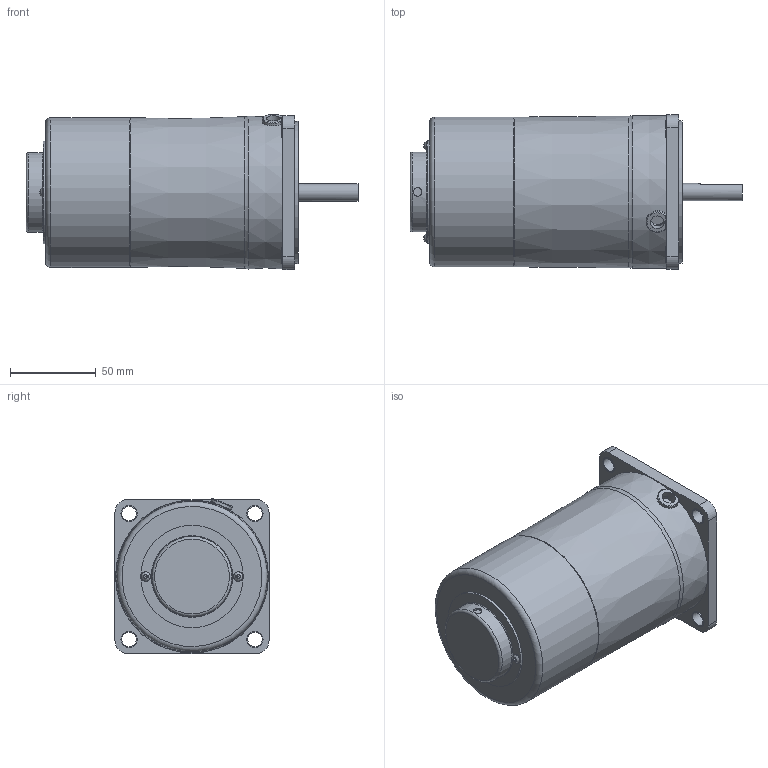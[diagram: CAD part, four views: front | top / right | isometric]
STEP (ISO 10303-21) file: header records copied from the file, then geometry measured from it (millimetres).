
FILE_DESCRIPTION(/* description */ (''),/* implementation_level */ '2;1');
FILE_NAME(/* name */ 'Y:\제품연구개발\3. 도면\3. 고객배포용\3D_홈페이지용\01-1 Standard AC SG Series\05-3 SPEED CONTROL ELECTROMAGNETIC BRAKE MOTOR(ES)\SG9R40_-ES12\SG9R40K-ES.stp',/* time_stamp */ '2023-12-01T09:12:27+09:00',/* author */ ('shyi1037'),/* organization */ (''),/* preprocessor_version */ 'ST-DEVELOPER v18.1',/* originating_system */ 'Autodesk Inventor 2022',/* authorisation */ '');
FILE_SCHEMA (('AUTOMOTIVE_DESIGN { 1 0 10303 214 3 1 1 }'));
Length unit declared in the file: millimetre
Products named in the file (1): S9R40K-ES
Bounding box: 194 x 90 x 90.6 mm (x, y, z)
Volume: 916653.4 mm3; surface area: 64283.1 mm2
Topology: 1 solids, 6 shells, 150 faces, 352 edges, 232 vertices
Faces by surface type: plane 86, cylinder 49, torus 10, bspline 3, cone 2
Full cylindrical faces by diameter (mm): 3 x2, 3.5 x2, 5 x1, 5.6 x2, 8 x1, 8.5 x4, 9.5 x4, 10 x2, 40 x1, 44.7 x1, 46.7 x1, 47.7 x1, 59.9 x1, 83 x1, 86 x1, 87.8 x1
Entity records: 4809 total; most frequent: CARTESIAN_POINT 1197, DIRECTION 734, ORIENTED_EDGE 704, EDGE_CURVE 352, AXIS2_PLACEMENT_3D 273, VERTEX_POINT 232, LINE 188, VECTOR 188
